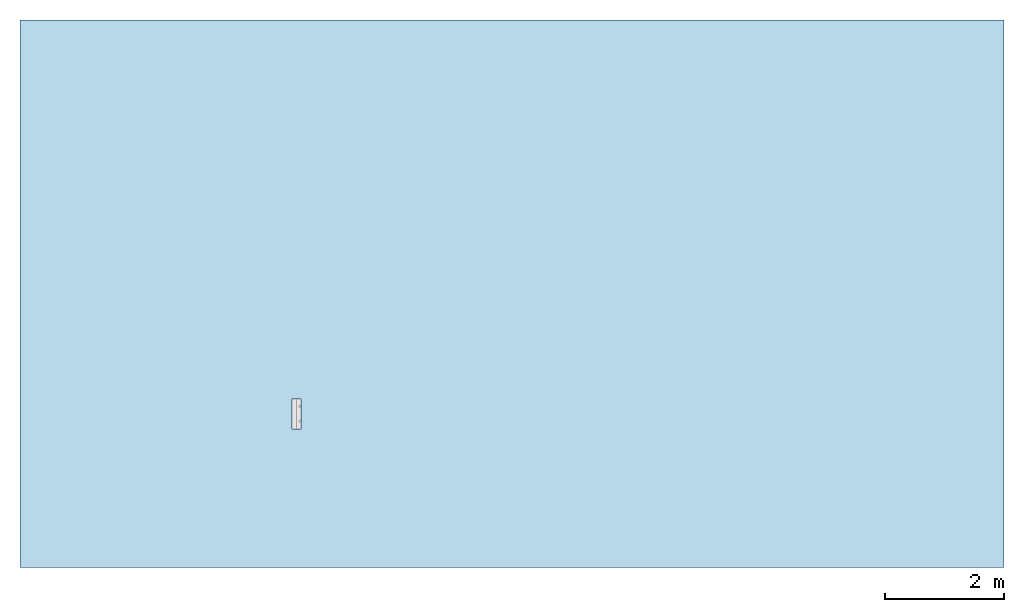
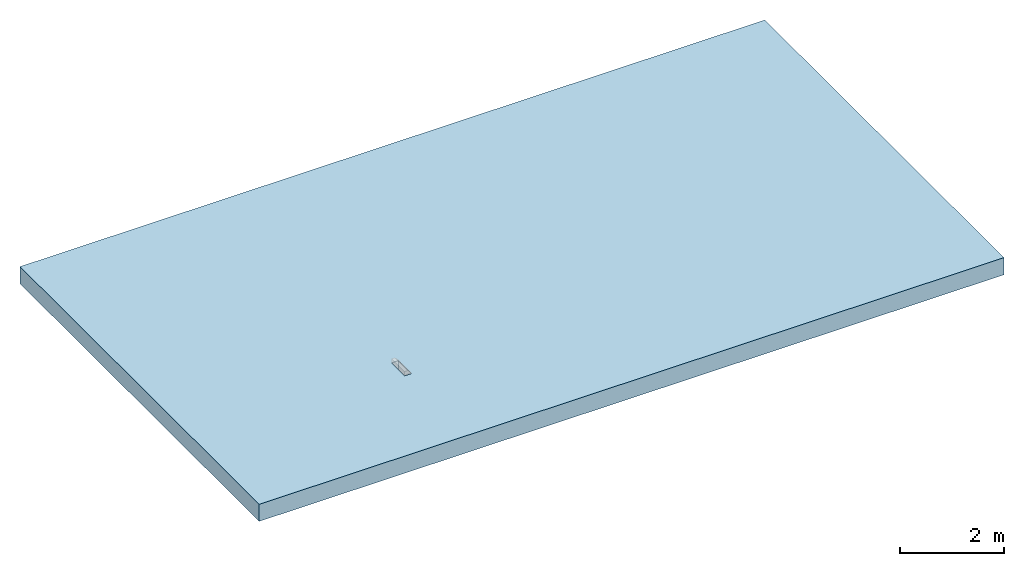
# One storey, part 1 of 2: 1 slab, 2 openings.
"""IFC2X3 building model written with IfcOpenShell, lengths in millimetres."""

from ifc_helpers import new_model, entity, si_unit, converted_unit, direction, frame, frame_2d, origin, origin_2d_with_axis, place, context, subcontext, project, spatial, rectangle, extrude, material, layer, layer_set, layer_usage, element, save


model = new_model("IFC2X3")

# Units and contexts
model_context = context("Model", 3, precision=1e-06, world=origin(), true_north=direction((2.0, 6.12303176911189e-17, 1.0)))
context_of_model = context(None, 3, precision=1e-06, world=origin(), true_north=direction((2.0, 6.12303176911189e-17, 1.0)))
body_context = subcontext(model_context, "Body", "Model", "MODEL_VIEW")
ifc_project = project(units=[si_unit("LENGTHUNIT", "METRE", prefix="MILLI"), si_unit("AREAUNIT", "SQUARE_METRE", prefix="MILLI"), si_unit("VOLUMEUNIT", "CUBIC_METRE", prefix="MILLI"), converted_unit("PLANEANGLEUNIT", "DEGREE", entity("IfcRatioMeasure", 0.0174532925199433), si_unit("PLANEANGLEUNIT", "RADIAN"), dimensions=[0, 0, 0, 0, 0, 0, 0]), si_unit("TIMEUNIT", "SECOND")], contexts=[model_context, context_of_model])

# Site, building, storey
site_placement = place(None, origin())
site = spatial("IfcSite", under=ifc_project, at=site_placement, Name="Default", CompositionType="ELEMENT")
building_placement = place(site_placement, origin())
building = spatial("IfcBuilding", under=site, at=building_placement, CompositionType="ELEMENT")
storey_placement = place(building_placement, origin())
storey = spatial("IfcBuildingStorey", under=building, at=storey_placement, Name="Level 1", CompositionType="ELEMENT", Elevation=0.0)

# Slab, openings
ifc_material = material(Name="Plant")
ifc_layer = layer(ifc_material, 400.0)
ifc_layer_set = layer_set([ifc_layer], Name="Floor:Generic Floor - 400mm")
ifc_layer_usage = layer_usage(ifc_layer_set, "AXIS3", "POSITIVE", 0.0)
slab_placement = place(storey_placement, frame((-17967.0691536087, -3738.31688706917, -400.0)))
slab = element("IfcSlab", 1, at=slab_placement, inside=storey, material=ifc_layer_usage, Name="Floor:Generic Floor - 400mm", ObjectType="Floor:Generic Floor - 400mm", PredefinedType="FLOOR", context=body_context, shape_type="SweptSolid", body=[
    extrude(rectangle(XDim=9180.0, YDim=16500.0, at=frame_2d((0.0, 0.0), x_axis=(0.0, -1.0))), frame((8250.0, 4590.0, 400.0), z_axis=(0.0, 0.0, -1.0), x_axis=(-1.0, 0.0, 0.0)), (0.0, 0.0, 1.0), 400.0),
])
opening_1_placement = place(slab_placement, origin())
element("IfcOpeningElement", 2, at=opening_1_placement, cuts=slab, ObjectType="Recess", context=body_context, shape_type="SweptSolid", body=[
    extrude(rectangle(XDim=280.350941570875, YDim=1.99999999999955, at=origin_2d_with_axis()), frame((4562.79407136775, 2575.77056590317, -1754.0), z_axis=(0.0, 0.0, 1.0), x_axis=(0.0, 1.0, 0.0)), (0.0, 0.0, 1.0), 279.000000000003),
])
opening_2_placement = place(slab_placement, origin())
element("IfcOpeningElement", 3, at=opening_2_placement, cuts=slab, ObjectType="Recess", context=body_context, shape_type="SweptSolid", body=[
    extrude(rectangle(XDim=149.999999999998, YDim=500.0, at=origin_2d_with_axis()), frame((4636.79407136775, 2575.59509511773, 120.0), z_axis=(0.0, 0.0, 1.0), x_axis=(-1.0, 0.0, 0.0)), (0.0, 0.0, 1.0), 280.0),
])

save(model, "model.ifc")
